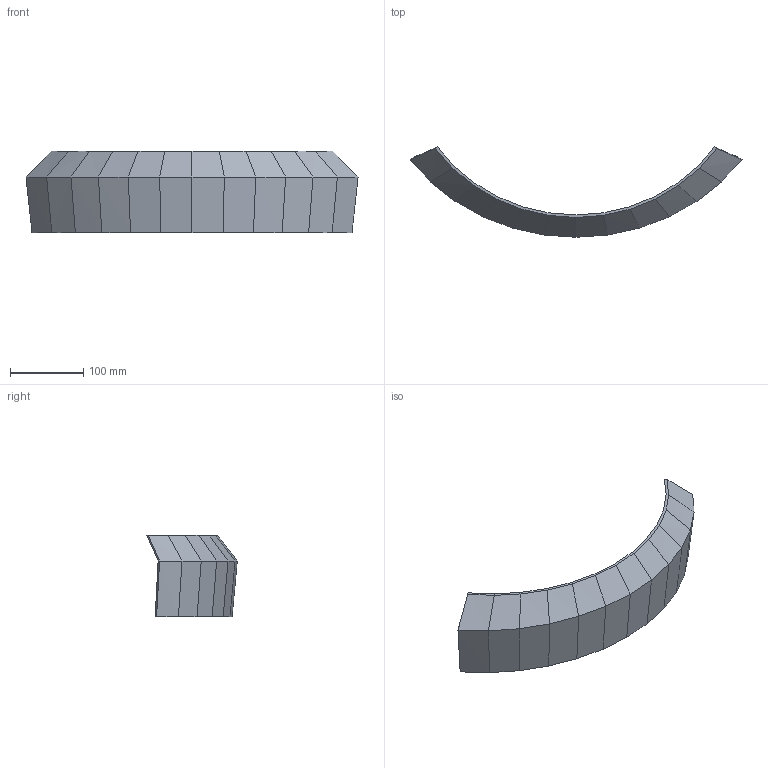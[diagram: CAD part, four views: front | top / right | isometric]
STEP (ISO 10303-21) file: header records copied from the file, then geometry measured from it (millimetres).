
FILE_DESCRIPTION(('Open CASCADE Model'),'2;1');
FILE_NAME('Open CASCADE Shape Model','2026-09-19T23:46:39',('Author'),( 'Open CASCADE'),'Open CASCADE STEP processor 7.9','Open CASCADE 7.9' ,'Unknown');
FILE_SCHEMA(('AUTOMOTIVE_DESIGN { 1 0 10303 214 1 1 1 1 }'));
Length unit declared in the file: millimetre
Products named in the file (1): Open CASCADE STEP translator 7.9 31
Bounding box: 453.81 x 123.67 x 111 mm (x, y, z)
Volume: 192318.5 mm3; surface area: 125718.3 mm2
Topology: 1 solids, 1 shells, 54 faces, 130 edges, 78 vertices
Faces by surface type: bspline 52, plane 2
Entity records: 3106 total; most frequent: CARTESIAN_POINT 779, DIRECTION 296, LINE 290, VECTOR 290, ORIENTED_EDGE 260, PCURVE 260, DEFINITIONAL_REPRESENTATION 260, EDGE_CURVE 130
